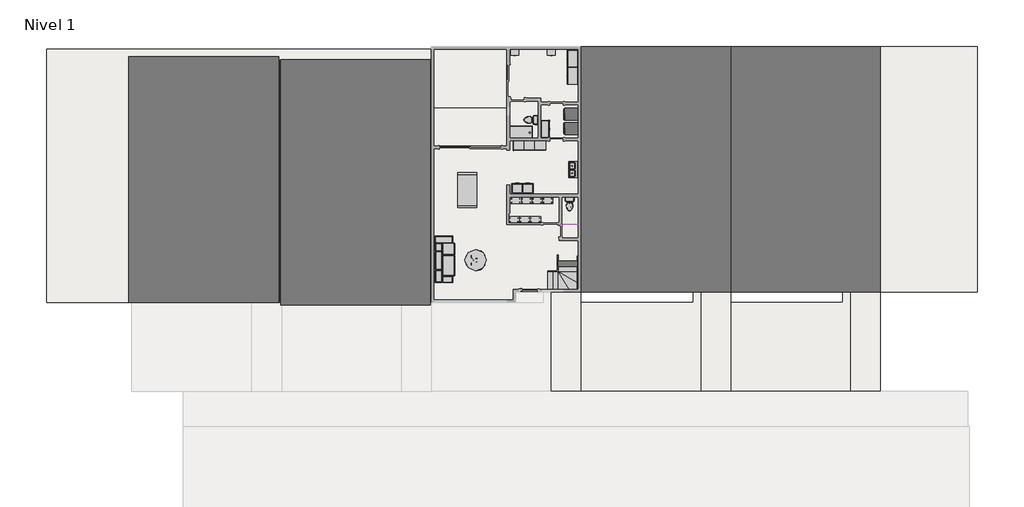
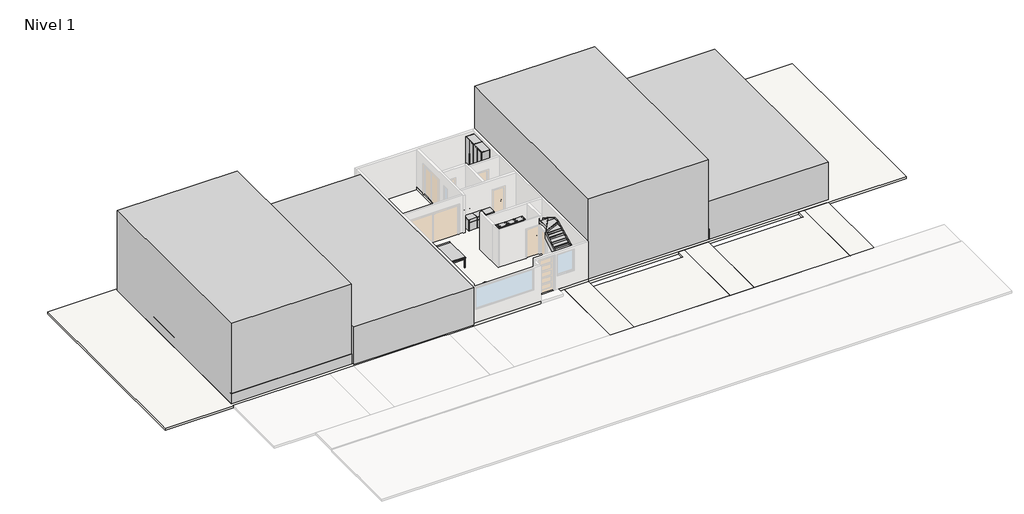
# One storey, part 2 of 2: 17 furniture elements, 15 members, 10 slabs, 9 proxies, 4 flow terminals, 3 stair flights.
"""IFC4 building model written with IfcOpenShell, lengths in millimetres."""

from ifc_helpers import new_model, si_unit, frame, origin, origin_with_axes, place, context, project, spatial, polyline, outline, extrude, transform, mapped, element, save
from components import generic_models_fb84f55b, flow_terminal_75_x_1_4_3fb2c740, flow_terminal_1000_x_535mm_04726dff, ada_tank_toilet_4266_toilet_domestic_3d_e97a8d24, ada_tank_toilet_4266_toilet_domestic_3d_4660e8f3, furniture_89622b55, furniture_f4cfe565, furniture_417ada3d, furniture_bd075ae4, furniture_1388815f, furniture_1000mm_x_1800mm_db1fa969, furniture_3_6_x_6_6_98a704b0, furniture_350_x_600_x_2000_mm_2159984b, furniture_600_x_600_x_2105_mm_e2cf2370, bed_side_table_5122_450x350x450_1b9dee2a, mesa_de_cristal_redonda_mesa_de_cristal_redonda_6508b132, stair_flight_da0a1a61

model = new_model("IFC4")

# Units and contexts
model_context = context("Model", 3, world=origin())
ifc_project = project(units=[si_unit("LENGTHUNIT", "METRE", prefix="MILLI")], contexts=[model_context])

# Site, building, storey
site = spatial("IfcSite", under=ifc_project)
building = spatial("IfcBuilding", under=site)
storey = spatial("IfcBuildingStorey", under=building, Name="Nivel 1", Elevation=0.0)

# Proxies
placement = place(None, origin())
generic_models_shape = generic_models_fb84f55b(model_context)
element("IfcBuildingElementProxy", 1, Name="lavadora secadora : lavadora secadora", ObjectType="lavadora secadora : lavadora secadora", at=placement, inside=storey, context=model_context, shape_type="MappedRepresentation", body=[
    mapped(generic_models_shape, transform((-1993.8561207, 8508.5903764, 0.0), x_axis=(-1.0, 0.0, 0.0), y_axis=(0.0, -1.0, 0.0), z_axis=(0.0, 0.0, 1.0))),
])
element("IfcBuildingElementProxy", 2, Name="lavadora secadora : lavadora secadora", ObjectType="lavadora secadora : lavadora secadora", at=placement, inside=storey, context=model_context, shape_type="MappedRepresentation", body=[
    mapped(generic_models_shape, transform((-1993.8561207, 9315.5903764, 0.0), x_axis=(-1.0, 0.0, 0.0), y_axis=(0.0, -1.0, 0.0), z_axis=(0.0, 0.0, 1.0))),
])
element("IfcBuildingElementProxy", 3, Name="Masa 1 : Masa 1", ObjectType="Masa 1 : Masa 1", at=placement, inside=storey, context=model_context, shape_type="SweptSolid", body=[
    extrude(outline(polyline([(7005.4647802, 13145.2742772), (7005.4647802, -729.7257228), (-1444.5352198, -729.7257228), (-1444.5352198, 13145.2742772), (7005.4647802, 13145.2742772)])), origin_with_axes(), (0.0, 0.0, 1.0), 5962.690775),
])
element("IfcBuildingElementProxy", 4, Name="Masa 2 : Masa 1", ObjectType="Masa 2 : Masa 1", at=placement, inside=storey, context=model_context, shape_type="SweptSolid", body=[
    extrude(outline(polyline([(-9940.5352198, 12411.2742772), (-9940.5352198, -1463.7257228), (-18390.5352198, -1463.7257228), (-18390.5352198, 12411.2742772), (-9940.5352198, 12411.2742772)])), origin_with_axes(), (0.0, 0.0, 1.0), 2800.0),
])
element("IfcBuildingElementProxy", 5, Name="Masa 3 : Masa 1", ObjectType="Masa 3 : Masa 1", at=placement, inside=storey, context=model_context, shape_type="SweptSolid", body=[
    extrude(outline(polyline([(-18505.5352198, 12567.2742772), (-18505.5352198, -1307.7257228), (-26955.5352198, -1307.7257228), (-26955.5352198, 12567.2742772), (-18505.5352198, 12567.2742772)])), origin_with_axes(), (0.0, 0.0, 1.0), 5962.690775),
])
element("IfcBuildingElementProxy", 6, Name="Masa 4 : Masa 1", ObjectType="Masa 4 : Masa 1", at=placement, inside=storey, context=model_context, shape_type="SweptSolid", body=[
    extrude(outline(polyline([(15455.4647802, 13145.2742772), (15455.4647802, -729.7257228), (7005.4647802, -729.7257228), (7005.4647802, 13145.2742772), (15455.4647802, 13145.2742772)])), origin_with_axes(), (0.0, 0.0, 1.0), 2800.0),
])
element("IfcBuildingElementProxy", 7, Name="Masa 5 : Masa 5", ObjectType="Masa 5 : Masa 5", at=placement, inside=storey, context=model_context, shape_type="SweptSolid", body=[
    extrude(outline(polyline([(-9894.5352198, 12411.2742772), (-9894.5352198, -1319.7257228), (-18390.5352198, -1319.7257228), (-18390.5352198, 12411.2742772), (-9894.5352198, 12411.2742772)])), origin_with_axes(), (0.0, 0.0, 1.0), 736.6),
])
element("IfcBuildingElementProxy", 8, Name="Masa 6 : Masa 5", ObjectType="Masa 6 : Masa 5", at=placement, inside=storey, context=model_context, shape_type="SweptSolid", body=[
    extrude(outline(polyline([(-18459.5352198, 12411.2742772), (-18459.5352198, -1319.7257228), (-26955.5352198, -1319.7257228), (-26955.5352198, 12411.2742772), (-18459.5352198, 12411.2742772)])), origin_with_axes(), (0.0, 0.0, 1.0), 736.6),
])
element("IfcBuildingElementProxy", 9, Name="Masa 7 : Masa 5", ObjectType="Masa 7 : Masa 5", at=placement, inside=storey, context=model_context, shape_type="SweptSolid", body=[
    extrude(outline(polyline([(7051.4647802, 13001.2742772), (7051.4647802, -729.7257228), (-1444.5352198, -729.7257228), (-1444.5352198, 13001.2742772), (7051.4647802, 13001.2742772)])), origin_with_axes(), (0.0, 0.0, 1.0), 736.6),
])

# Flow terminals
flow_terminal_75_x_1_4_shape = flow_terminal_75_x_1_4_3fb2c740(model_context)
element("IfcFlowTerminal", 10, ObjectType="Cubeta de ducha - Desagüe axial : .75 x 1.4", at=placement, inside=storey, context=model_context, shape_type="MappedRepresentation", body=[
    mapped(flow_terminal_75_x_1_4_shape, transform((-4884.5352198, 8271.2742772, 0.0), x_axis=(0.0, 1.0, 0.0), y_axis=(-1.0, 0.0, 0.0), z_axis=(0.0, 0.0, 1.0))),
])
flow_terminal_1000_x_535mm_shape = flow_terminal_1000_x_535mm_04726dff(model_context)
element("IfcFlowTerminal", 11, ObjectType="Lavandino  - Doppio : 1000 x 535mm", at=placement, inside=storey, context=model_context, shape_type="MappedRepresentation", body=[
    mapped(flow_terminal_1000_x_535mm_shape, transform((-1906.0797732, 6206.1330604, 0.0), x_axis=(0.0, -1.0, 0.0), y_axis=(1.0, 0.0, 0.0), z_axis=(0.0, 0.0, 1.0))),
])
ada_tank_toilet_4266_toilet_domestic_3d_shape = ada_tank_toilet_4266_toilet_domestic_3d_e97a8d24(model_context)
ada_tank_toilet_4266_toilet_domestic_3d_2_shape = ada_tank_toilet_4266_toilet_domestic_3d_4660e8f3(model_context)
element("IfcFlowTerminal", 12, ObjectType="ADA_Tank_Toilet_4266 : Toilet-Domestic-3D", at=placement, inside=storey, context=model_context, shape_type="MappedRepresentation", body=[
    mapped(ada_tank_toilet_4266_toilet_domestic_3d_shape, transform((-4359.2312472, 8997.2742772, 0.0), x_axis=(0.0, 1.0, 0.0), y_axis=(-1.0, 0.0, 0.0), z_axis=(0.0, 0.0, 1.0))),
    mapped(ada_tank_toilet_4266_toilet_domestic_3d_2_shape, transform((-4359.2312472, 8997.2742772, 0.0), x_axis=(0.0, 1.0, 0.0), y_axis=(-1.0, 0.0, 0.0), z_axis=(0.0, 0.0, 1.0))),
])
element("IfcFlowTerminal", 13, ObjectType="ADA_Tank_Toilet_4266 : Toilet-Domestic-3D", at=placement, inside=storey, context=model_context, shape_type="MappedRepresentation", body=[
    mapped(ada_tank_toilet_4266_toilet_domestic_3d_shape, transform((-2080.5352198, 4155.5782498, 0.0), x_axis=(-1.0, 0.0, 0.0), y_axis=(0.0, -1.0, 0.0), z_axis=(0.0, 0.0, 1.0))),
    mapped(ada_tank_toilet_4266_toilet_domestic_3d_2_shape, transform((-2080.5352198, 4155.5782498, 0.0), x_axis=(-1.0, 0.0, 0.0), y_axis=(0.0, -1.0, 0.0), z_axis=(0.0, 0.0, 1.0))),
])

# Furniture
furniture_shape = furniture_89622b55(model_context)
element("IfcFurniture", 14, ObjectType="T70 - 100%- ARMADIO UNDERLINE L2923  : T70 - 100%- ARMADIO UNDERLINE L2923 ", at=placement, inside=storey, context=model_context, shape_type="MappedRepresentation", body=[
    mapped(furniture_shape, transform((-1887.5352198, 12700.2742772, 0.0), x_axis=(0.0, -1.0, 0.0), y_axis=(1.0, 0.0, 0.0), z_axis=(0.0, 0.0, 1.0))),
])
furniture_2_shape = furniture_f4cfe565(model_context)
furniture_3_shape = furniture_417ada3d(model_context)
furniture_4_shape = furniture_bd075ae4(model_context)
element("IfcFurniture", 15, ObjectType="Blks_Mueb_Muuto_Sofá de 3 Plazas Softblocks : Único", at=placement, inside=storey, context=model_context, shape_type="MappedRepresentation", body=[
    mapped(furniture_2_shape, transform((-9121.8900362, 1121.2742772, 0.0), x_axis=(0.0, 1.0, 0.0), y_axis=(-1.0, 0.0, 0.0), z_axis=(0.0, 0.0, 1.0))),
    mapped(furniture_3_shape, transform((-9121.8900362, 1121.2742772, 0.0), x_axis=(0.0, 1.0, 0.0), y_axis=(-1.0, 0.0, 0.0), z_axis=(0.0, 0.0, 1.0))),
    mapped(furniture_4_shape, transform((-9121.8900362, 1121.2742772, 0.0), x_axis=(0.0, 1.0, 0.0), y_axis=(-1.0, 0.0, 0.0), z_axis=(0.0, 0.0, 1.0))),
])
furniture_5_shape = furniture_1388815f(model_context)
element("IfcFurniture", 16, ObjectType="T70 - THESIS-Composizione 2 : T70 - THESIS-Composizione 2", at=placement, inside=storey, context=model_context, shape_type="MappedRepresentation", body=[
    mapped(furniture_5_shape, transform((-4243.5352198, 7830.2742772, 0.0), x_axis=(1.0, 0.0, 0.0), y_axis=(0.0, 1.0, 0.0), z_axis=(0.0, 0.0, 1.0))),
])
furniture_1000mm_x_1800mm_shape = furniture_1000mm_x_1800mm_db1fa969(model_context)
element("IfcFurniture", 17, ObjectType="Armoire - 2 portes battantes : 1000mm x 1800mm", at=placement, inside=storey, context=model_context, shape_type="MappedRepresentation", body=[
    mapped(furniture_1000mm_x_1800mm_shape, transform((-3439.5352198, 8377.2742772, 0.0), x_axis=(0.0, 1.0, 0.0), y_axis=(-1.0, 0.0, 0.0), z_axis=(0.0, 0.0, 1.0))),
])
furniture_3_6_x_6_6_shape = furniture_3_6_x_6_6_98a704b0(model_context)
element("IfcFurniture", 18, ObjectType="mesa con 8 sillas : 3-6 x 6-6", at=placement, inside=storey, context=model_context, shape_type="MappedRepresentation", body=[
    mapped(furniture_3_6_x_6_6_shape, transform((-7858.4058538, 5029.4365996, 0.0), x_axis=(0.0, -1.0, 0.0), y_axis=(1.0, 0.0, 0.0), z_axis=(0.0, 0.0, 1.0))),
])
furniture_350_x_600_x_2000_mm_shape = furniture_350_x_600_x_2000_mm_2159984b(model_context)
element("IfcFurniture", 19, ObjectType="Biblioteca con Montantes : 350 x 600 x 2000 mm", at=placement, inside=storey, context=model_context, shape_type="MappedRepresentation", body=[
    mapped(furniture_350_x_600_x_2000_mm_shape, transform((-5126.8980051, 4264.2742772, 0.0), x_axis=(1.0, 0.0, 0.0), y_axis=(0.0, 1.0, 0.0), z_axis=(0.0, 0.0, 1.0))),
])
element("IfcFurniture", 20, ObjectType="Biblioteca con Montantes : 350 x 600 x 2000 mm", at=placement, inside=storey, context=model_context, shape_type="MappedRepresentation", body=[
    mapped(furniture_350_x_600_x_2000_mm_shape, transform((-4526.8980051, 4264.2742772, 0.0), x_axis=(1.0, 0.0, 0.0), y_axis=(0.0, 1.0, 0.0), z_axis=(0.0, 0.0, 1.0))),
])
element("IfcFurniture", 21, ObjectType="Biblioteca con Montantes : 350 x 600 x 2000 mm", at=placement, inside=storey, context=model_context, shape_type="MappedRepresentation", body=[
    mapped(furniture_350_x_600_x_2000_mm_shape, transform((-3926.8980051, 4264.2742772, 0.0), x_axis=(1.0, 0.0, 0.0), y_axis=(0.0, 1.0, 0.0), z_axis=(0.0, 0.0, 1.0))),
])
element("IfcFurniture", 22, ObjectType="Biblioteca con Montantes : 350 x 600 x 2000 mm", at=placement, inside=storey, context=model_context, shape_type="MappedRepresentation", body=[
    mapped(furniture_350_x_600_x_2000_mm_shape, transform((-3326.8980051, 4264.2742772, 0.0), x_axis=(1.0, 0.0, 0.0), y_axis=(0.0, 1.0, 0.0), z_axis=(0.0, 0.0, 1.0))),
])
element("IfcFurniture", 23, ObjectType="Biblioteca con Montantes : 350 x 600 x 2000 mm", at=placement, inside=storey, context=model_context, shape_type="MappedRepresentation", body=[
    mapped(furniture_350_x_600_x_2000_mm_shape, transform((-5219.5352198, 3175.2742772, 0.0), x_axis=(1.0, 0.0, 0.0), y_axis=(0.0, 1.0, 0.0), z_axis=(0.0, 0.0, 1.0))),
])
element("IfcFurniture", 24, ObjectType="Biblioteca con Montantes : 350 x 600 x 2000 mm", at=placement, inside=storey, context=model_context, shape_type="MappedRepresentation", body=[
    mapped(furniture_350_x_600_x_2000_mm_shape, transform((-4619.5352198, 3175.2742772, 0.0), x_axis=(1.0, 0.0, 0.0), y_axis=(0.0, 1.0, 0.0), z_axis=(0.0, 0.0, 1.0))),
])
element("IfcFurniture", 25, ObjectType="Biblioteca con Montantes : 350 x 600 x 2000 mm", at=placement, inside=storey, context=model_context, shape_type="MappedRepresentation", body=[
    mapped(furniture_350_x_600_x_2000_mm_shape, transform((-4019.5352198, 3175.2742772, 0.0), x_axis=(1.0, 0.0, 0.0), y_axis=(0.0, 1.0, 0.0), z_axis=(0.0, 0.0, 1.0))),
])
furniture_600_x_600_x_2105_mm_shape = furniture_600_x_600_x_2105_mm_e2cf2370(model_context)
element("IfcFurniture", 26, ObjectType="Unidad de torre - Horno : 600 x 600 x 2105 mm", at=placement, inside=storey, context=model_context, shape_type="MappedRepresentation", body=[
    mapped(furniture_600_x_600_x_2105_mm_shape, transform((-4997.4717379, 4828.2742772, 0.0), x_axis=(-1.0, 0.0, 0.0), y_axis=(0.0, -1.0, 0.0), z_axis=(0.0, 0.0, 1.0))),
])
element("IfcFurniture", 27, ObjectType="Unidad de torre - Horno : 600 x 600 x 2105 mm", at=placement, inside=storey, context=model_context, shape_type="MappedRepresentation", body=[
    mapped(furniture_600_x_600_x_2105_mm_shape, transform((-4397.4717379, 4828.2742772, 0.0), x_axis=(-1.0, 0.0, 0.0), y_axis=(0.0, -1.0, 0.0), z_axis=(0.0, 0.0, 1.0))),
])
bed_side_table_5122_450x350x450_shape = bed_side_table_5122_450x350x450_1b9dee2a(model_context)
element("IfcFurniture", 28, ObjectType="Bed_Side_Table_5122 : 450x350x450", at=placement, inside=storey, context=model_context, shape_type="MappedRepresentation", body=[
    mapped(bed_side_table_5122_450x350x450_shape, transform((-3110.5352198, 12893.8742772, 0.0), x_axis=(1.0, 0.0, 0.0), y_axis=(0.0, 1.0, 0.0), z_axis=(0.0, 0.0, 1.0))),
])
element("IfcFurniture", 29, ObjectType="Bed_Side_Table_5122 : 450x350x450", at=placement, inside=storey, context=model_context, shape_type="MappedRepresentation", body=[
    mapped(bed_side_table_5122_450x350x450_shape, transform((-5178.5352198, 12893.8742772, 0.0), x_axis=(1.0, 0.0, 0.0), y_axis=(0.0, 1.0, 0.0), z_axis=(0.0, 0.0, 1.0))),
])
mesa_de_cristal_redonda_mesa_de_cristal_redonda_shape = mesa_de_cristal_redonda_mesa_de_cristal_redonda_6508b132(model_context)
element("IfcFurniture", 30, ObjectType="mesa de cristal redonda : mesa de cristal redonda", at=placement, inside=storey, context=model_context, shape_type="MappedRepresentation", body=[
    mapped(mesa_de_cristal_redonda_mesa_de_cristal_redonda_shape, transform((-7388.5352198, 1070.2742772, 0.0), x_axis=(1.0, 0.0, 0.0), y_axis=(0.0, 1.0, 0.0), z_axis=(0.0, 0.0, 1.0))),
])

# Members
element("IfcMember", 31, ObjectType="Zanca - Anchura 50 mm", at=placement, inside=storey, context=model_context, shape_type="SweptSolid", body=[
    extrude(outline(polyline([(232.1342498, -3319.5352198), (0.0, -3319.5352198), (0.0, -2923.6257058), (89.8861168, -2769.5352198), (552.9675831, -2769.5352198), (232.1342498, -3319.5352198)])), frame((0.0, 420.2742772, 0.0), z_axis=(0.0, 1.0, 0.0), x_axis=(0.0, 0.0, 1.0)), (0.0, 0.0, 1.0), 50.0),
])
element("IfcMember", 32, ObjectType="Zanca - Anchura 50 mm", at=placement, inside=storey, context=model_context, shape_type="SweptSolid", body=[
    extrude(outline(polyline([(420.2742772, 644.0527835), (420.2742772, 1107.1342498), (2220.2742772, 2157.1342498), (2220.2742772, 1694.0527835), (420.2742772, 644.0527835)])), frame((-2769.5352198, 0.0, 0.0), z_axis=(1.0, 0.0, 0.0), x_axis=(0.0, 1.0, 0.0)), (0.0, 0.0, 1.0), 50.0),
])
element("IfcMember", 33, ObjectType="Zanca - Anchura 50 mm", at=placement, inside=storey, context=model_context, shape_type="SweptSolid", body=[
    extrude(outline(polyline([(274.0426266, -3319.5352198), (0.0, -3319.5352198), (0.0, -2913.5400612), (480.2318226, -1644.5352198), (723.996047, -1644.5352198), (723.996047, -2130.5405675), (274.0426266, -3319.5352198)])), frame((0.0, -629.7257228, 0.0), z_axis=(0.0, 1.0, 0.0), x_axis=(0.0, 0.0, 1.0)), (0.0, 0.0, 1.0), 50.0),
])
element("IfcMember", 34, ObjectType="Zanca - Anchura 50 mm", at=placement, inside=storey, context=model_context, shape_type="SweptSolid", body=[
    extrude(outline(polyline([(-629.7257228, 480.2318226), (-629.7257228, 699.4535254), (2729.1084064, 2348.1387109), (3075.2742772, 2348.1387109), (3075.2742772, 2072.4654831), (-168.5522627, 480.2318226), (-629.7257228, 480.2318226)])), frame((-1644.5352198, 0.0, 0.0), z_axis=(1.0, 0.0, 0.0), x_axis=(0.0, 1.0, 0.0)), (0.0, 0.0, 1.0), 50.0),
])
element("IfcMember", 35, ObjectType="Zanca - Anchura 50 mm", at=placement, inside=storey, context=model_context, shape_type="SweptSolid", body=[
    extrude(outline(polyline([(2072.4654831, -1594.5352198), (2333.7965062, -1594.5352198), (2656.4961107, -2719.5352198), (2240.3654517, -2719.5352198), (2072.4654831, -2134.1999356), (2072.4654831, -1594.5352198)])), frame((0.0, 3075.2742772, 0.0), z_axis=(0.0, 1.0, 0.0), x_axis=(0.0, 0.0, 1.0)), (0.0, 0.0, 1.0), 50.0),
])
element("IfcMember", 36, ObjectType="Zanca - Anchura 50 mm", at=placement, inside=storey, context=model_context, shape_type="SweptSolid", body=[
    extrude(outline(polyline([(232.1342498, -3319.5352198), (0.0, -3319.5352198), (0.0, -2923.6257058), (89.8861168, -2769.5352198), (552.9675831, -2769.5352198), (232.1342498, -3319.5352198)])), frame((0.0, 420.2742772, 0.0), z_axis=(0.0, 1.0, 0.0), x_axis=(0.0, 0.0, 1.0)), (0.0, 0.0, 1.0), 50.0),
])
element("IfcMember", 37, ObjectType="Zanca - Anchura 50 mm", at=placement, inside=storey, context=model_context, shape_type="SweptSolid", body=[
    extrude(outline(polyline([(420.2742772, 644.0527835), (420.2742772, 1107.1342498), (2220.2742772, 2157.1342498), (2220.2742772, 1694.0527835), (420.2742772, 644.0527835)])), frame((-2769.5352198, 0.0, 0.0), z_axis=(1.0, 0.0, 0.0), x_axis=(0.0, 1.0, 0.0)), (0.0, 0.0, 1.0), 50.0),
])
element("IfcMember", 38, ObjectType="Zanca - Anchura 50 mm", at=placement, inside=storey, context=model_context, shape_type="SweptSolid", body=[
    extrude(outline(polyline([(274.0426266, -3319.5352198), (0.0, -3319.5352198), (0.0, -2913.5400612), (480.2318226, -1644.5352198), (723.996047, -1644.5352198), (723.996047, -2130.5405675), (274.0426266, -3319.5352198)])), frame((0.0, -629.7257228, 0.0), z_axis=(0.0, 1.0, 0.0), x_axis=(0.0, 0.0, 1.0)), (0.0, 0.0, 1.0), 50.0),
])
element("IfcMember", 39, ObjectType="Zanca - Anchura 50 mm", at=placement, inside=storey, context=model_context, shape_type="SweptSolid", body=[
    extrude(outline(polyline([(-629.7257228, 480.2318226), (-629.7257228, 699.4535254), (2729.1084064, 2348.1387109), (3075.2742772, 2348.1387109), (3075.2742772, 2072.4654831), (-168.5522627, 480.2318226), (-629.7257228, 480.2318226)])), frame((-1644.5352198, 0.0, 0.0), z_axis=(1.0, 0.0, 0.0), x_axis=(0.0, 1.0, 0.0)), (0.0, 0.0, 1.0), 50.0),
])
element("IfcMember", 40, ObjectType="Zanca - Anchura 50 mm", at=placement, inside=storey, context=model_context, shape_type="SweptSolid", body=[
    extrude(outline(polyline([(2072.4654831, -1594.5352198), (2333.7965062, -1594.5352198), (2656.4961107, -2719.5352198), (2240.3654517, -2719.5352198), (2072.4654831, -2134.1999356), (2072.4654831, -1594.5352198)])), frame((0.0, 3075.2742772, 0.0), z_axis=(0.0, 1.0, 0.0), x_axis=(0.0, 0.0, 1.0)), (0.0, 0.0, 1.0), 50.0),
])
element("IfcMember", 41, ObjectType="Zanca - Anchura 50 mm", at=placement, inside=storey, context=model_context, shape_type="SweptSolid", body=[
    extrude(outline(polyline([(232.1342498, -3319.5352198), (0.0, -3319.5352198), (0.0, -2923.6257058), (89.8861168, -2769.5352198), (552.9675831, -2769.5352198), (232.1342498, -3319.5352198)])), frame((0.0, 420.2742772, 0.0), z_axis=(0.0, 1.0, 0.0), x_axis=(0.0, 0.0, 1.0)), (0.0, 0.0, 1.0), 50.0),
])
element("IfcMember", 42, ObjectType="Zanca - Anchura 50 mm", at=placement, inside=storey, context=model_context, shape_type="SweptSolid", body=[
    extrude(outline(polyline([(420.2742772, 644.0527835), (420.2742772, 1107.1342498), (2220.2742772, 2157.1342498), (2220.2742772, 1694.0527835), (420.2742772, 644.0527835)])), frame((-2769.5352198, 0.0, 0.0), z_axis=(1.0, 0.0, 0.0), x_axis=(0.0, 1.0, 0.0)), (0.0, 0.0, 1.0), 50.0),
])
element("IfcMember", 43, ObjectType="Zanca - Anchura 50 mm", at=placement, inside=storey, context=model_context, shape_type="SweptSolid", body=[
    extrude(outline(polyline([(274.0426266, -3319.5352198), (0.0, -3319.5352198), (0.0, -2913.5400612), (480.2318226, -1644.5352198), (723.996047, -1644.5352198), (723.996047, -2130.5405675), (274.0426266, -3319.5352198)])), frame((0.0, -629.7257228, 0.0), z_axis=(0.0, 1.0, 0.0), x_axis=(0.0, 0.0, 1.0)), (0.0, 0.0, 1.0), 50.0),
])
element("IfcMember", 44, ObjectType="Zanca - Anchura 50 mm", at=placement, inside=storey, context=model_context, shape_type="SweptSolid", body=[
    extrude(outline(polyline([(-629.7257228, 480.2318226), (-629.7257228, 699.4535254), (2729.1084064, 2348.1387109), (3075.2742772, 2348.1387109), (3075.2742772, 2072.4654831), (-168.5522627, 480.2318226), (-629.7257228, 480.2318226)])), frame((-1644.5352198, 0.0, 0.0), z_axis=(1.0, 0.0, 0.0), x_axis=(0.0, 1.0, 0.0)), (0.0, 0.0, 1.0), 50.0),
])
element("IfcMember", 45, ObjectType="Zanca - Anchura 50 mm", at=placement, inside=storey, context=model_context, shape_type="SweptSolid", body=[
    extrude(outline(polyline([(2072.4654831, -1594.5352198), (2333.7965062, -1594.5352198), (2656.4961107, -2719.5352198), (2240.3654517, -2719.5352198), (2072.4654831, -2134.1999356), (2072.4654831, -1594.5352198)])), frame((0.0, 3075.2742772, 0.0), z_axis=(0.0, 1.0, 0.0), x_axis=(0.0, 0.0, 1.0)), (0.0, 0.0, 1.0), 50.0),
])

# Slabs
element("IfcSlab", 46, ObjectType="Genérico 200mm", at=placement, inside=storey, context=model_context, shape_type="SweptSolid", body=[
    extrude(outline(polyline([(-5114.5352198, -1319.7257228), (-9894.5352198, -1319.7257228), (-9894.5352198, 7523.2742772), (-5619.5352198, 7523.2742772), (-5619.5352198, 13145.2742772), (-1444.5352198, 13145.2742772), (-1444.5352198, -729.7257228), (-5114.5352198, -729.7257228), (-5114.5352198, -1319.7257228)]), holes=[polyline([(-5469.5352198, 10068.2742772), (-5469.5352198, 7980.2742772), (-3864.5352198, 7980.2742772), (-3864.5352198, 10068.2742772), (-5469.5352198, 10068.2742772)]), polyline([(-1594.5352198, 4650.2742772), (-2519.5352198, 4650.2742772), (-2519.5352198, 2330.2742772), (-1594.5352198, 2330.2742772), (-1594.5352198, 4650.2742772)])]), frame((0.0, 0.0, -200.0), z_axis=(0.0, 0.0, 1.0), x_axis=(1.0, 0.0, 0.0)), (0.0, 0.0, 1.0), 200.0),
])
element("IfcSlab", 47, ObjectType="Genérico 200mm", at=placement, inside=storey, context=model_context, shape_type="SweptSolid", body=[
    extrude(outline(polyline([(-9894.5352198, 7523.2742772), (-9894.5352198, 9671.2742772), (-5619.5352198, 9671.2742772), (-5619.5352198, 7523.2742772), (-9894.5352198, 7523.2742772)])), frame((0.0, 0.0, -200.0), z_axis=(0.0, 0.0, 1.0), x_axis=(1.0, 0.0, 0.0)), (0.0, 0.0, 1.0), 200.0),
])
element("IfcSlab", 48, ObjectType="Genérico 150 mm", at=placement, inside=storey, context=model_context, shape_type="SweptSolid", body=[
    extrude(outline(polyline([(-9894.5352198, 9671.2742772), (-9894.5352198, 13145.2742772), (-5619.5352198, 13145.2742772), (-5619.5352198, 9671.2742772), (-9894.5352198, 9671.2742772)])), frame((0.0, 0.0, -350.0), z_axis=(0.0, 0.0, 1.0), x_axis=(1.0, 0.0, 0.0)), (0.0, 0.0, 1.0), 150.0),
])
element("IfcSlab", 49, ObjectType="Genérico 150 mm", at=placement, inside=storey, context=model_context, shape_type="SweptSolid", body=[
    extrude(outline(polyline([(-3144.5352198, -729.7257228), (-1444.5352198, -729.7257228), (-1444.5352198, -6329.7257228), (-3144.5352198, -6329.7257228), (-3144.5352198, -729.7257228)])), frame((0.0, 0.0, -350.0), z_axis=(0.0, 0.0, 1.0), x_axis=(1.0, 0.0, 0.0)), (0.0, 0.0, 1.0), 150.0),
])
element("IfcSlab", 50, ObjectType="Genérico 150 mm", at=placement, inside=storey, context=model_context, shape_type="SweptSolid", body=[
    extrude(outline(polyline([(-3864.5352198, 10068.2742772), (-3864.5352198, 7980.2742772), (-5469.5352198, 7980.2742772), (-5469.5352198, 10068.2742772), (-3864.5352198, 10068.2742772)])), frame((0.0, 0.0, -400.0), z_axis=(0.0, 0.0, 1.0), x_axis=(1.0, 0.0, 0.0)), (0.0, 0.0, 1.0), 150.0),
    extrude(outline(polyline([(-1594.5352198, 4650.2742772), (-1594.5352198, 2330.2742772), (-2519.5352198, 2330.2742772), (-2519.5352198, 4650.2742772), (-1594.5352198, 4650.2742772)])), frame((0.0, 0.0, -400.0), z_axis=(0.0, 0.0, 1.0), x_axis=(1.0, 0.0, 0.0)), (0.0, 0.0, 1.0), 150.0),
])
element("IfcSlab", 51, ObjectType="Genérico 150 mm", at=placement, inside=storey, context=model_context, shape_type="SweptSolid", body=[
    extrude(outline(polyline([(20937.9490838, -729.7257228), (-1444.5352198, -729.7257228), (-1444.5352198, 13145.2742772), (20937.9490838, 13145.2742772), (20937.9490838, -729.7257228)])), frame((0.0, 0.0, -350.0), z_axis=(0.0, 0.0, 1.0), x_axis=(1.0, 0.0, 0.0)), (0.0, 0.0, 1.0), 150.0),
    extrude(outline(polyline([(-31608.6847265, -1319.7257228), (-31608.6847265, 12995.2742772), (-9894.5352198, 12995.2742772), (-9894.5352198, -1319.7257228), (-31608.6847265, -1319.7257228)])), frame((0.0, 0.0, -350.0), z_axis=(0.0, 0.0, 1.0), x_axis=(1.0, 0.0, 0.0)), (0.0, 0.0, 1.0), 150.0),
])
element("IfcSlab", 52, ObjectType="Genérico 150 mm", at=placement, inside=storey, context=model_context, shape_type="SweptSolid", body=[
    extrude(outline(polyline([(4892.4647802, -729.7257228), (5305.4647802, -729.7257228), (5305.4647802, -6329.7257228), (-1444.5352198, -6329.7257228), (-1444.5352198, -1319.7257228), (4892.4647802, -1319.7257228), (4892.4647802, -729.7257228)])), frame((0.0, 0.0, -350.0), z_axis=(0.0, 0.0, 1.0), x_axis=(1.0, 0.0, 0.0)), (0.0, 0.0, 1.0), 150.0),
])
element("IfcSlab", 53, ObjectType="Genérico 150 mm", at=placement, inside=storey, context=model_context, shape_type="SweptSolid", body=[
    extrude(outline(polyline([(5305.4647802, -729.7257228), (7005.4647802, -729.7257228), (7005.4647802, -6329.7257228), (5305.4647802, -6329.7257228), (5305.4647802, -729.7257228)])), frame((0.0, 0.0, -350.0), z_axis=(0.0, 0.0, 1.0), x_axis=(1.0, 0.0, 0.0)), (0.0, 0.0, 1.0), 150.0),
])
element("IfcSlab", 54, ObjectType="Genérico 150 mm", at=placement, inside=storey, context=model_context, shape_type="SweptSolid", body=[
    extrude(outline(polyline([(13342.4647802, -729.7257228), (13755.4647802, -729.7257228), (13755.4647802, -6329.7257228), (7005.4647802, -6329.7257228), (7005.4647802, -1319.7257228), (13342.4647802, -1319.7257228), (13342.4647802, -729.7257228)])), frame((0.0, 0.0, -350.0), z_axis=(0.0, 0.0, 1.0), x_axis=(1.0, 0.0, 0.0)), (0.0, 0.0, 1.0), 150.0),
])
element("IfcSlab", 55, ObjectType="Genérico 150 mm", at=placement, inside=storey, context=model_context, shape_type="SweptSolid", body=[
    extrude(outline(polyline([(13755.4647802, -729.7257228), (15455.4647802, -729.7257228), (15455.4647802, -6329.7257228), (13755.4647802, -6329.7257228), (13755.4647802, -729.7257228)])), frame((0.0, 0.0, -350.0), z_axis=(0.0, 0.0, 1.0), x_axis=(1.0, 0.0, 0.0)), (0.0, 0.0, 1.0), 150.0),
])

# Stair flights
stair_flight_shape = stair_flight_da0a1a61(model_context)
element("IfcStairFlight", 56, ObjectType="Huella 50 mm Contrahuella 13 mm", at=placement, inside=storey, context=model_context, shape_type="MappedRepresentation", body=[
    mapped(stair_flight_shape, transform((0.0, 0.0, 0.0), x_axis=(1.0, 0.0, 0.0), y_axis=(0.0, 1.0, 0.0), z_axis=(0.0, 0.0, 1.0))),
])
element("IfcStairFlight", 57, ObjectType="Huella 50 mm Contrahuella 13 mm", at=placement, inside=storey, context=model_context, shape_type="MappedRepresentation", body=[
    mapped(stair_flight_shape, transform((0.0, 0.0, 0.0), x_axis=(1.0, 0.0, 0.0), y_axis=(0.0, 1.0, 0.0), z_axis=(0.0, 0.0, 1.0))),
])
element("IfcStairFlight", 58, ObjectType="Huella 50 mm Contrahuella 13 mm", at=placement, inside=storey, context=model_context, shape_type="MappedRepresentation", body=[
    mapped(stair_flight_shape, transform((0.0, 0.0, 0.0), x_axis=(1.0, 0.0, 0.0), y_axis=(0.0, 1.0, 0.0), z_axis=(0.0, 0.0, 1.0))),
])

save(model, "model.ifc")
